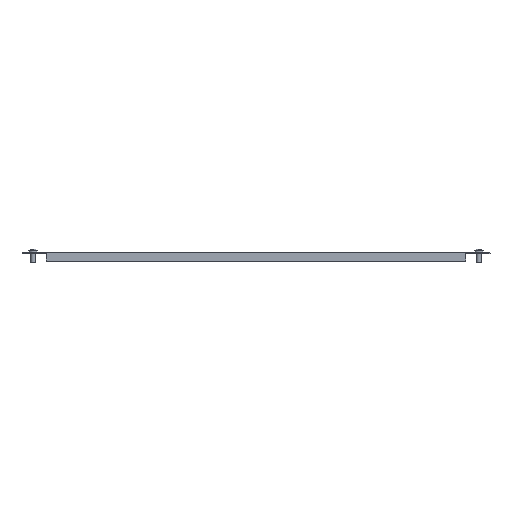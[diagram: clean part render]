
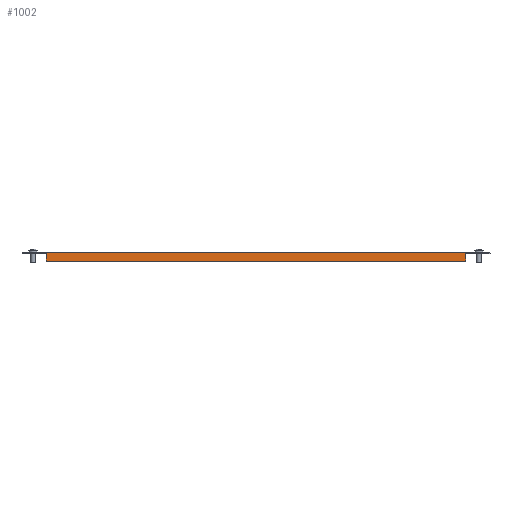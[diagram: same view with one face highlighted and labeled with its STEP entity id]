
A CAD part, front view. The second image highlights one B-rep face of the part: STEP entity #1002.
In plain terms, the highlighted planar face has unit normal (0, -1, 0).
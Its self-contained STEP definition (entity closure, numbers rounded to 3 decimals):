
#41 = EDGE_CURVE ( 'NONE', #1789, #2974, #3655, .T. ) ;
#44 = FACE_OUTER_BOUND ( 'NONE', #231, .T. ) ;
#72 = VECTOR ( 'NONE', #200, 1000. ) ;
#200 = DIRECTION ( 'NONE',  ( -1., 0., 0. ) ) ;
#231 = EDGE_LOOP ( 'NONE', ( #2986, #1517, #2844, #820, #1591, #2347 ) ) ;
#259 = VECTOR ( 'NONE', #583, 1000. ) ;
#468 = CARTESIAN_POINT ( 'NONE',  ( 235.5, -149., -10. ) ) ;
#583 = DIRECTION ( 'NONE',  ( -1., 0., 0. ) ) ;
#627 = CARTESIAN_POINT ( 'NONE',  ( -235.5, -149., -10. ) ) ;
#768 = EDGE_CURVE ( 'NONE', #3335, #1386, #3095, .T. ) ;
#820 = ORIENTED_EDGE ( 'NONE', *, *, #768, .F. ) ;
#857 = DIRECTION ( 'NONE',  ( 0., 0., -1. ) ) ;
#905 = DIRECTION ( 'NONE',  ( 0., 0., -1. ) ) ;
#1002 = ADVANCED_FACE ( 'NONE', ( #44 ), #1706, .T. ) ;
#1013 = VECTOR ( 'NONE', #3634, 1000. ) ;
#1059 = CARTESIAN_POINT ( 'NONE',  ( -235.5, -149., -10. ) ) ;
#1167 = CARTESIAN_POINT ( 'NONE',  ( 235.5, -149., -10. ) ) ;
#1200 = EDGE_CURVE ( 'NONE', #1789, #1683, #2349, .T. ) ;
#1336 = CARTESIAN_POINT ( 'NONE',  ( -235.5, -149., 0. ) ) ;
#1357 = LINE ( 'NONE', #1059, #72 ) ;
#1386 = VERTEX_POINT ( 'NONE', #3067 ) ;
#1422 = VECTOR ( 'NONE', #905, 1000. ) ;
#1517 = ORIENTED_EDGE ( 'NONE', *, *, #1200, .T. ) ;
#1591 = ORIENTED_EDGE ( 'NONE', *, *, #2521, .F. ) ;
#1598 = CARTESIAN_POINT ( 'NONE',  ( -235.5, -149., -2.4 ) ) ;
#1683 = VERTEX_POINT ( 'NONE', #2672 ) ;
#1706 = PLANE ( 'NONE',  #2021 ) ;
#1789 = VERTEX_POINT ( 'NONE', #3321 ) ;
#1939 = CARTESIAN_POINT ( 'NONE',  ( -235.5, -149., -1.8 ) ) ;
#1982 = DIRECTION ( 'NONE',  ( 0., -1., 0. ) ) ;
#1994 = LINE ( 'NONE', #2871, #259 ) ;
#2021 = AXIS2_PLACEMENT_3D ( 'NONE', #2040, #1982, #857 ) ;
#2040 = CARTESIAN_POINT ( 'NONE',  ( 0., -149., 0. ) ) ;
#2230 = EDGE_CURVE ( 'NONE', #1683, #1386, #1994, .T. ) ;
#2347 = ORIENTED_EDGE ( 'NONE', *, *, #3272, .F. ) ;
#2349 = LINE ( 'NONE', #3519, #2777 ) ;
#2521 = EDGE_CURVE ( 'NONE', #2678, #3335, #3093, .T. ) ;
#2672 = CARTESIAN_POINT ( 'NONE',  ( 235.5, -149., 0. ) ) ;
#2678 = VERTEX_POINT ( 'NONE', #627 ) ;
#2680 = DIRECTION ( 'NONE',  ( 0., 0., 1. ) ) ;
#2777 = VECTOR ( 'NONE', #2680, 1000. ) ;
#2844 = ORIENTED_EDGE ( 'NONE', *, *, #2230, .T. ) ;
#2871 = CARTESIAN_POINT ( 'NONE',  ( 0., -149., 0. ) ) ;
#2912 = VECTOR ( 'NONE', #3649, 1000. ) ;
#2974 = VERTEX_POINT ( 'NONE', #1167 ) ;
#2986 = ORIENTED_EDGE ( 'NONE', *, *, #41, .F. ) ;
#3067 = CARTESIAN_POINT ( 'NONE',  ( -235.5, -149., 0. ) ) ;
#3093 = LINE ( 'NONE', #1939, #2912 ) ;
#3095 = LINE ( 'NONE', #1336, #1013 ) ;
#3272 = EDGE_CURVE ( 'NONE', #2974, #2678, #1357, .T. ) ;
#3321 = CARTESIAN_POINT ( 'NONE',  ( 235.5, -149., -2.4 ) ) ;
#3335 = VERTEX_POINT ( 'NONE', #1598 ) ;
#3519 = CARTESIAN_POINT ( 'NONE',  ( 235.5, -149., -2.4 ) ) ;
#3634 = DIRECTION ( 'NONE',  ( 0., 0., 1. ) ) ;
#3649 = DIRECTION ( 'NONE',  ( 0., 0., 1. ) ) ;
#3655 = LINE ( 'NONE', #468, #1422 ) ;
